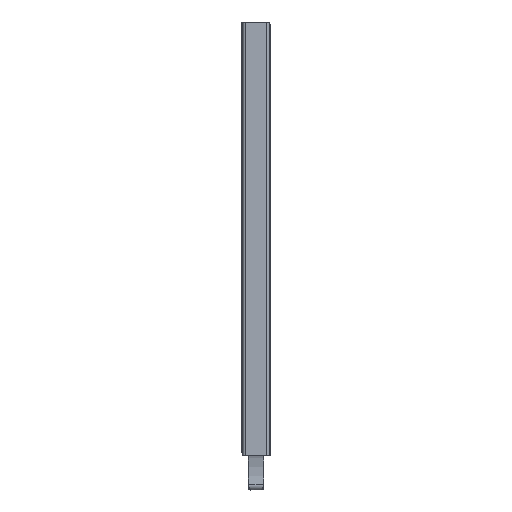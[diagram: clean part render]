
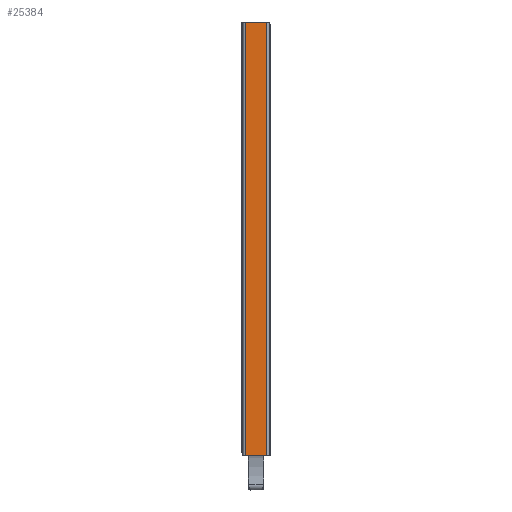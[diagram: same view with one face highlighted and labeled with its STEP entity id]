
A CAD part, left-side view. The second image highlights one B-rep face of the part: STEP entity #25384.
In plain terms, the highlighted planar face has unit normal (-1, 0, 0).
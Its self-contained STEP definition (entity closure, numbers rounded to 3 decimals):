
#132 = VERTEX_POINT ( 'NONE', #23043 ) ;
#189 = VECTOR ( 'NONE', #6504, 1000. ) ;
#295 = AXIS2_PLACEMENT_3D ( 'NONE', #25254, #23000, #27660 ) ;
#528 = CARTESIAN_POINT ( 'NONE',  ( -25.35, 7.575, 150. ) ) ;
#752 = CARTESIAN_POINT ( 'NONE',  ( -25.35, 7.575, 150. ) ) ;
#1079 = EDGE_CURVE ( 'NONE', #13378, #24207, #26070, .T. ) ;
#1571 = PLANE ( 'NONE',  #295 ) ;
#3997 = FACE_OUTER_BOUND ( 'NONE', #9325, .T. ) ;
#4583 = ORIENTED_EDGE ( 'NONE', *, *, #6225, .F. ) ;
#6080 = EDGE_CURVE ( 'NONE', #13378, #9887, #26232, .T. ) ;
#6225 = EDGE_CURVE ( 'NONE', #24207, #132, #15732, .T. ) ;
#6320 = LINE ( 'NONE', #14984, #11757 ) ;
#6504 = DIRECTION ( 'NONE',  ( 0., 0., -1. ) ) ;
#6965 = VECTOR ( 'NONE', #7059, 1000. ) ;
#7059 = DIRECTION ( 'NONE',  ( 0., -1., 0. ) ) ;
#9172 = ORIENTED_EDGE ( 'NONE', *, *, #6080, .T. ) ;
#9325 = EDGE_LOOP ( 'NONE', ( #14345, #4583, #25240, #9172 ) ) ;
#9887 = VERTEX_POINT ( 'NONE', #11785 ) ;
#10599 = EDGE_CURVE ( 'NONE', #9887, #132, #6320, .T. ) ;
#11757 = VECTOR ( 'NONE', #23622, 1000. ) ;
#11785 = CARTESIAN_POINT ( 'NONE',  ( -25.35, 7.575, -150. ) ) ;
#13338 = VECTOR ( 'NONE', #16154, 1000. ) ;
#13378 = VERTEX_POINT ( 'NONE', #752 ) ;
#14345 = ORIENTED_EDGE ( 'NONE', *, *, #10599, .T. ) ;
#14984 = CARTESIAN_POINT ( 'NONE',  ( -25.35, 7.575, -150. ) ) ;
#15732 = LINE ( 'NONE', #15865, #13338 ) ;
#15865 = CARTESIAN_POINT ( 'NONE',  ( -25.35, -7.575, 150. ) ) ;
#16154 = DIRECTION ( 'NONE',  ( 0., 0., -1. ) ) ;
#21701 = CARTESIAN_POINT ( 'NONE',  ( -25.35, 7.575, 150. ) ) ;
#23000 = DIRECTION ( 'NONE',  ( 1., 0., 0. ) ) ;
#23043 = CARTESIAN_POINT ( 'NONE',  ( -25.35, -7.575, -150. ) ) ;
#23622 = DIRECTION ( 'NONE',  ( 0., -1., 0. ) ) ;
#24207 = VERTEX_POINT ( 'NONE', #25562 ) ;
#25240 = ORIENTED_EDGE ( 'NONE', *, *, #1079, .F. ) ;
#25254 = CARTESIAN_POINT ( 'NONE',  ( -25.35, 7.575, 150. ) ) ;
#25384 = ADVANCED_FACE ( 'NONE', ( #3997 ), #1571, .F. ) ;
#25562 = CARTESIAN_POINT ( 'NONE',  ( -25.35, -7.575, 150. ) ) ;
#26070 = LINE ( 'NONE', #528, #6965 ) ;
#26232 = LINE ( 'NONE', #21701, #189 ) ;
#27660 = DIRECTION ( 'NONE',  ( 0., 1., 0. ) ) ;
